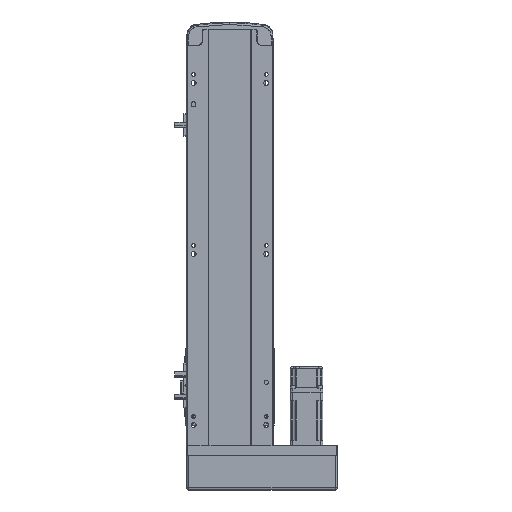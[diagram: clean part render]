
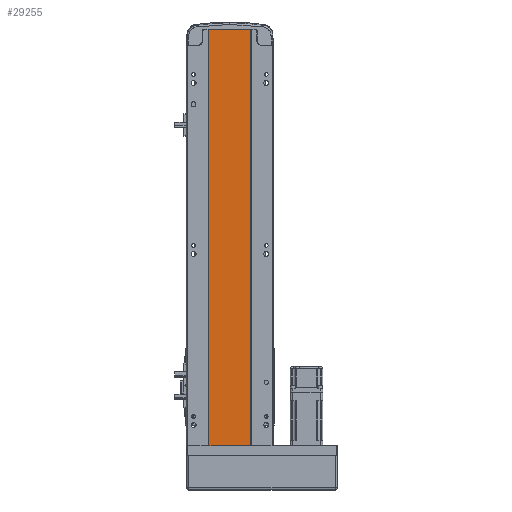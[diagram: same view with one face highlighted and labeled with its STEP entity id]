
A CAD part, front view. The second image highlights one B-rep face of the part: STEP entity #29255.
In plain terms, the highlighted planar face has unit normal (0, -1, 0).
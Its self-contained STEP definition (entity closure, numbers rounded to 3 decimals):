
#267 = DIRECTION ( 'NONE',  ( 0., 0., -1. ) ) ;
#732 = EDGE_CURVE ( 'NONE', #20191, #51119, #27510, .T. ) ;
#3292 = CARTESIAN_POINT ( 'NONE',  ( -24.5, 2., 0. ) ) ;
#6301 = EDGE_CURVE ( 'NONE', #20191, #50630, #51193, .T. ) ;
#6391 = ORIENTED_EDGE ( 'NONE', *, *, #732, .T. ) ;
#7401 = DIRECTION ( 'NONE',  ( 0., 0., 1. ) ) ;
#8258 = VECTOR ( 'NONE', #39164, 1000. ) ;
#9559 = VECTOR ( 'NONE', #267, 1000. ) ;
#10610 = CARTESIAN_POINT ( 'NONE',  ( 24.5, 2., 487. ) ) ;
#12000 = CARTESIAN_POINT ( 'NONE',  ( -24.5, 2., 487. ) ) ;
#14691 = VERTEX_POINT ( 'NONE', #54145 ) ;
#15813 = DIRECTION ( 'NONE',  ( 1., 0., 0. ) ) ;
#17560 = LINE ( 'NONE', #25462, #24419 ) ;
#17638 = FACE_OUTER_BOUND ( 'NONE', #31543, .T. ) ;
#18090 = ORIENTED_EDGE ( 'NONE', *, *, #19712, .F. ) ;
#19712 = EDGE_CURVE ( 'NONE', #50630, #14691, #19783, .T. ) ;
#19783 = LINE ( 'NONE', #52952, #9559 ) ;
#20191 = VERTEX_POINT ( 'NONE', #42497 ) ;
#21857 = ORIENTED_EDGE ( 'NONE', *, *, #6301, .F. ) ;
#24419 = VECTOR ( 'NONE', #15813, 1000. ) ;
#25078 = DIRECTION ( 'NONE',  ( 1., 0., 0. ) ) ;
#25462 = CARTESIAN_POINT ( 'NONE',  ( 0., 2., 0. ) ) ;
#27510 = LINE ( 'NONE', #12000, #8258 ) ;
#29255 = ADVANCED_FACE ( 'NONE', ( #17638 ), #41260, .F. ) ;
#31543 = EDGE_LOOP ( 'NONE', ( #33635, #18090, #21857, #6391 ) ) ;
#33635 = ORIENTED_EDGE ( 'NONE', *, *, #51820, .T. ) ;
#34168 = VECTOR ( 'NONE', #25078, 1000. ) ;
#38397 = CARTESIAN_POINT ( 'NONE',  ( -24.5, 2., 487. ) ) ;
#39164 = DIRECTION ( 'NONE',  ( 0., 0., -1. ) ) ;
#41260 = PLANE ( 'NONE',  #47790 ) ;
#42497 = CARTESIAN_POINT ( 'NONE',  ( -24.5, 2., 487. ) ) ;
#46760 = CARTESIAN_POINT ( 'NONE',  ( 0., 2., 487. ) ) ;
#47790 = AXIS2_PLACEMENT_3D ( 'NONE', #46760, #55135, #7401 ) ;
#50630 = VERTEX_POINT ( 'NONE', #10610 ) ;
#51119 = VERTEX_POINT ( 'NONE', #3292 ) ;
#51193 = LINE ( 'NONE', #38397, #34168 ) ;
#51820 = EDGE_CURVE ( 'NONE', #51119, #14691, #17560, .T. ) ;
#52952 = CARTESIAN_POINT ( 'NONE',  ( 24.5, 2., 487. ) ) ;
#54145 = CARTESIAN_POINT ( 'NONE',  ( 24.5, 2., 0. ) ) ;
#55135 = DIRECTION ( 'NONE',  ( 0., 1., 0. ) ) ;
